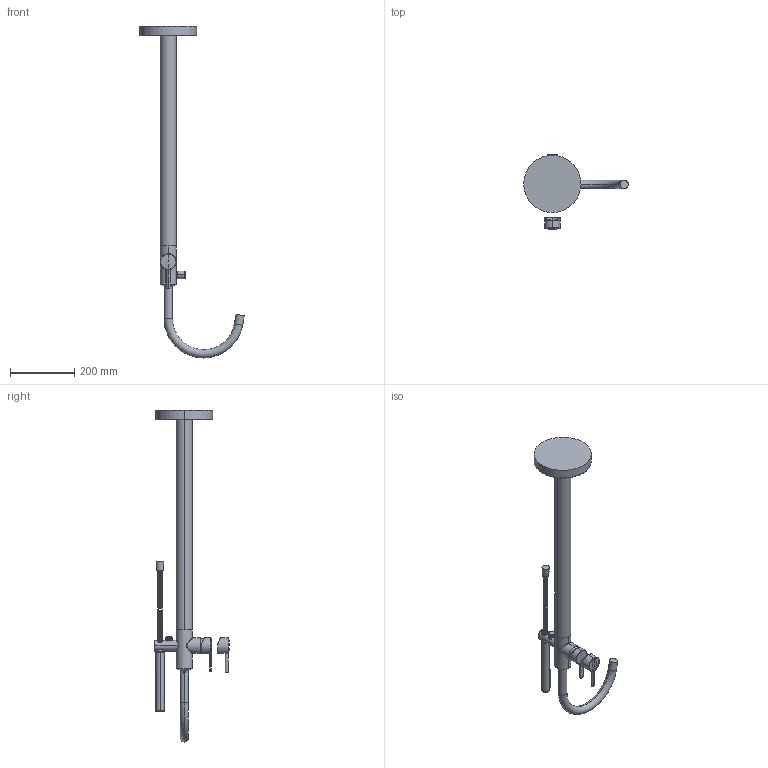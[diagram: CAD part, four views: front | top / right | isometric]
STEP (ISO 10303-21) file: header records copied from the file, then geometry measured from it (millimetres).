
FILE_DESCRIPTION((''),'2;1');
FILE_NAME('73145--00_SCRINKWRAP','2026-09-04T14:02:54',('clra1'),(''),'CREO PARAMETRIC BY PTC INC, 2022244','CREO PARAMETRIC BY PTC INC, 2022244','');
FILE_SCHEMA(('CONFIG_CONTROL_DESIGN'));
Products named in the file (1): 73145--00_SCRINKWRAP
Bounding box: 325.34 x 233 x 1032.55 mm (x, y, z)
Surface area: 311274.8 mm2 (no closed solid volume)
Topology: 0 solids, 103 shells, 676 faces, 1881 edges, 1263 vertices
Faces by surface type: cylinder 294, torus 120, bspline 109, plane 101, cone 29, sphere 18, extrusion 5
Entity records: 46002 total; most frequent: CARTESIAN_POINT 30280, DIRECTION 3117, ORIENTED_EDGE 3100, EDGE_CURVE 1875, AXIS2_PLACEMENT_3D 1345, VERTEX_POINT 1263, CIRCLE 783, EDGE_LOOP 676
